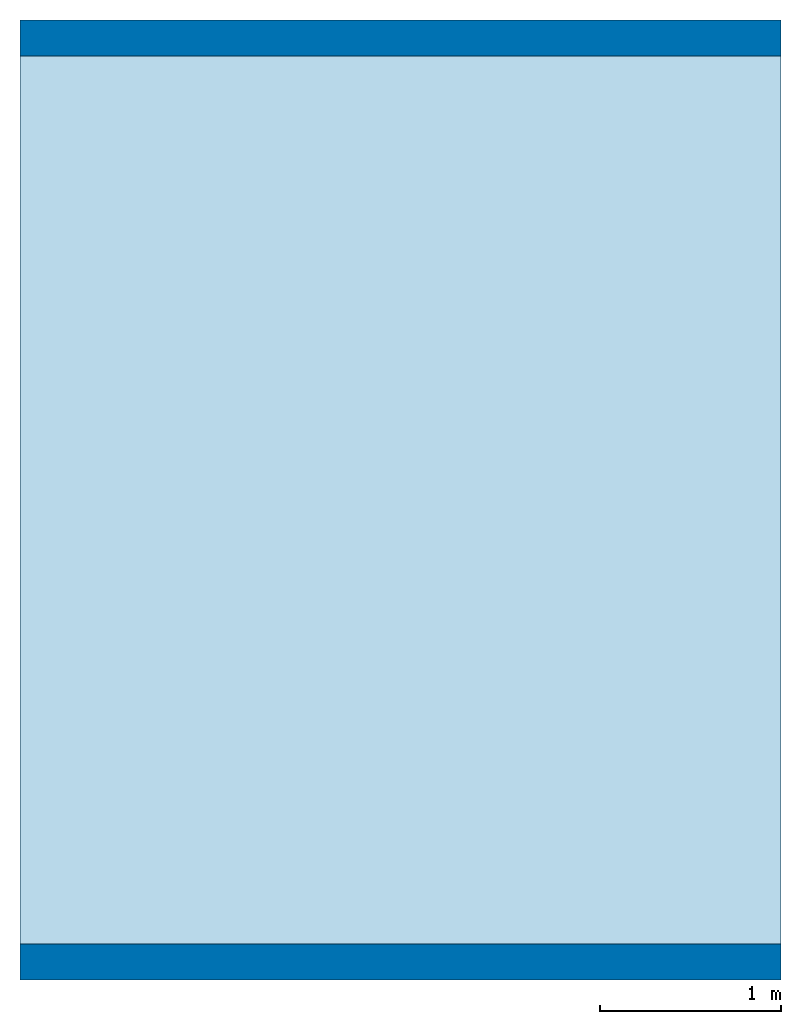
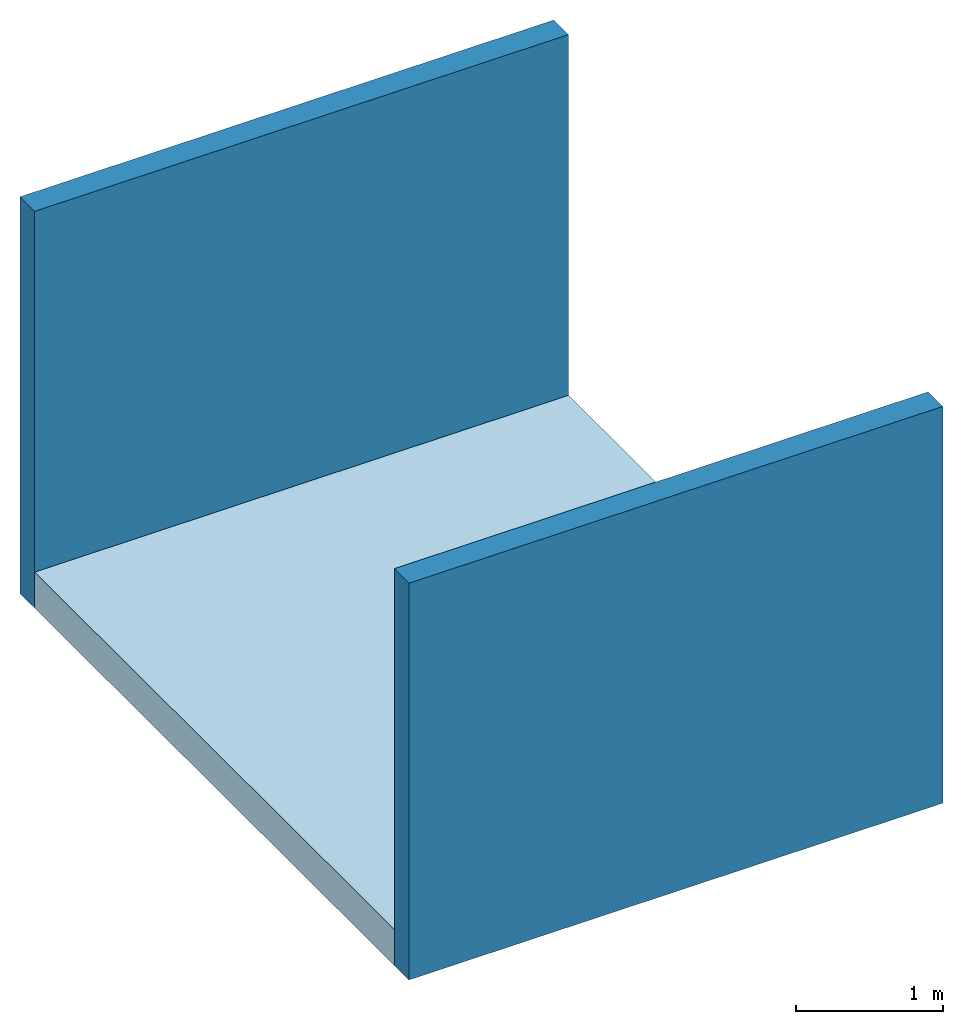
# One storey: 2 walls, 1 slab.
"""IFC4 building model written with IfcOpenShell, lengths in millimetres."""

from ifc_helpers import new_model, entity, si_unit, converted_unit, derived_unit, direction, frame, origin, place, context, subcontext, project, spatial, indexed_curve, outline, extrude, material, constituent, constituent_set, type_object, element, save


model = new_model("IFC4")

# Units and contexts
model_context = context("Model", 3, precision=0.01, world=origin(), true_north=direction((6.123031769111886e-17, 1.0)))
plan_context = context("Plan", 3, precision=0.01, world=origin(), true_north=direction((6.123031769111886e-17, 1.0)))
body_context = subcontext(model_context, "Body", "Model", "MODEL_VIEW")
ifc_project = project(units=[si_unit("LENGTHUNIT", "METRE", prefix="MILLI"), converted_unit("PLANEANGLEUNIT", "DEGREE", entity("IfcPlaneAngleMeasure", 0.017453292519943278), si_unit("PLANEANGLEUNIT", "RADIAN"), dimensions=[0, 0, 0, 0, 0, 0, 0]), si_unit("AREAUNIT", "SQUARE_METRE"), si_unit("VOLUMEUNIT", "CUBIC_METRE"), si_unit("POWERUNIT", "WATT"), derived_unit("USERDEFINED", [(si_unit("MASSUNIT", "GRAM", prefix="KILO"), 1), (si_unit("TIMEUNIT", "SECOND"), -3)])], contexts=[model_context, plan_context])

# Site, building, storey
site_placement = place(None, origin())
site = spatial("IfcSite", under=ifc_project, at=site_placement, Name="[ComplexCode]", CompositionType="ELEMENT")
building_placement = place(site_placement, origin())
building = spatial("IfcBuilding", under=site, at=building_placement, Name="[BouwwerkCode]", CompositionType="ELEMENT")
storey_placement = place(building_placement, frame((0.0, 0.0, 3300.0)))
storey = spatial("IfcBuildingStorey", under=building, at=storey_placement, Name="01", CompositionType="ELEMENT", Elevation=3300.0)

# Slab
ifc_material = material(Name="beton")
ifc_constituent_1 = constituent(ifc_material, Name="beton")
ifc_constituent_2 = constituent(ifc_material, Name="beton (2)")
ifc_constituent_set = constituent_set(constituents=[ifc_constituent_1, ifc_constituent_2], Name="Floor:RBS_23_FL_vloer_binnen_d=300")
slab_type = type_object("IfcSlabType", Name="Floors : Floor : RBS_23_FL_vloer_binnen_d=300", PredefinedType="FLOOR", material=ifc_constituent_set)
slab_placement = place(storey_placement, origin())
element("IfcSlab", 1, at=slab_placement, inside=storey, type_object=slab_type, material=ifc_constituent_set, Name="Floors : Floor : RBS_23_FL_vloer_binnen_d=300", ObjectType="vloer", PredefinedType="FLOOR", context=body_context, shape_type="SweptSolid", body=[
    extrude(outline(indexed_curve([(-2549.999999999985, -2100.00000000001), (2549.9999999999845, -2100.00000000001), (2549.9999999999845, 2100.00000000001), (-2549.9999999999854, 2100.00000000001), (-2549.999999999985, -2100.00000000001)], self_intersect=False)), frame((5000.0, 4950.0, -50.0), z_axis=(0.0, 0.0, 1.0), x_axis=(0.0, 1.0, 0.0)), (0.0, 0.0, 1.0), 50.0),
    extrude(outline(indexed_curve([(-2549.999999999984, -2100.00000000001), (2549.9999999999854, -2100.00000000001), (2549.9999999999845, 2100.00000000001), (-2549.9999999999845, 2100.00000000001), (-2549.999999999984, -2100.00000000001)], self_intersect=False)), frame((5000.0, 4950.0, -300.0), z_axis=(0.0, 0.0, 1.0), x_axis=(0.0, 1.0, 0.0)), (0.0, 0.0, 1.0), 250.00000000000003),
])

# Walls
wall_type = type_object("IfcWallType", Name="Walls : Basic Wall : RBS_21_WA_wand_buiten_d=200", PredefinedType="STANDARD")
wall_1_placement = place(storey_placement, frame((2900.0, 7500.0, -300.0)))
element("IfcWall", 2, at=wall_1_placement, inside=storey, type_object=wall_type, material=ifc_material, Name="Walls : Basic Wall : RBS_21_WA_wand_buiten_d=200", ObjectType="wand", PredefinedType="NOTDEFINED", context=body_context, shape_type="SweptSolid", body=[
    extrude(outline(indexed_curve([(4200.000000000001, 100.00000000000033), (2.2449684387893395e-13, 100.0), (-2.2449684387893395e-13, -100.0), (4200.000000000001, -99.99999999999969), (4200.000000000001, 100.00000000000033)], self_intersect=False)), origin(), (0.0, 0.0, 1.0), 3300.0),
])
wall_2_placement = place(storey_placement, frame((7100.0, 2400.0, -300.0), z_axis=(0.0, 0.0, 1.0), x_axis=(-1.0, 0.0, 0.0)))
element("IfcWall", 3, at=wall_2_placement, inside=storey, type_object=wall_type, material=ifc_material, Name="Walls : Basic Wall : RBS_21_WA_wand_buiten_d=200", ObjectType="wand", PredefinedType="NOTDEFINED", context=body_context, shape_type="SweptSolid", body=[
    extrude(outline(indexed_curve([(4200.000000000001, 99.99999999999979), (-3.1693672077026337e-13, 100.0), (3.1693672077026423e-13, -100.00000000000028), (4200.000000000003, -99.99999999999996), (4200.000000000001, 99.99999999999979)], self_intersect=False)), origin(), (0.0, 0.0, 1.0), 3300.0),
])

save(model, "model.ifc")
